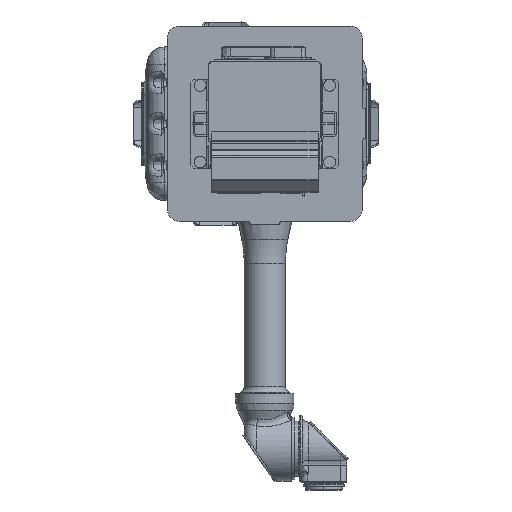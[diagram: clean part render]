
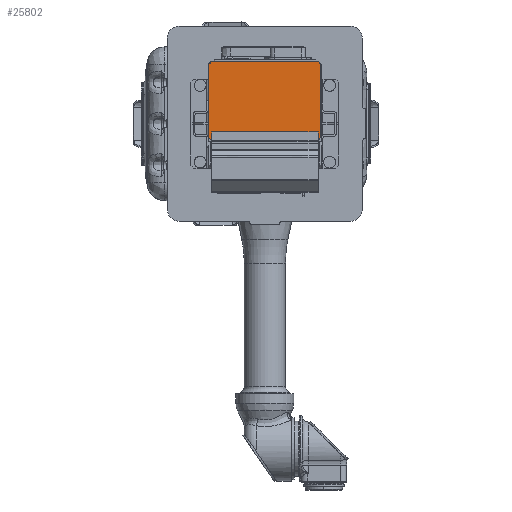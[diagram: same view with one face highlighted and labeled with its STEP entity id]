
A CAD part, front view. The second image highlights one B-rep face of the part: STEP entity #25802.
In plain terms, the highlighted free-form (B-spline) face has degree [3, 3] with [4, 4] control points.
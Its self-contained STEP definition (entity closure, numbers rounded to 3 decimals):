
#20768=B_SPLINE_SURFACE_WITH_KNOTS('',3,3,((#189042,#189043,#189044,#189045),
(#189046,#189047,#189048,#189049),(#189050,#189051,#189052,#189053),(#189054,
#189055,#189056,#189057)),.UNSPECIFIED.,.F.,.F.,.F.,(4,4),(4,4),(0.,1.),
(0.,1.),.UNSPECIFIED.);
#25802=ADVANCED_FACE('',(#28424),#20768,.F.);
#28424=FACE_OUTER_BOUND('',#31226,.T.);
#31226=EDGE_LOOP('',(#44735,#44736,#44737,#44738,#44739,#44740,#44741,#44742,
#44743,#44744));
#44735=ORIENTED_EDGE('',*,*,#55809,.F.);
#44736=ORIENTED_EDGE('',*,*,#55806,.F.);
#44737=ORIENTED_EDGE('',*,*,#55804,.F.);
#44738=ORIENTED_EDGE('',*,*,#55802,.F.);
#44739=ORIENTED_EDGE('',*,*,#55800,.F.);
#44740=ORIENTED_EDGE('',*,*,#55799,.F.);
#44741=ORIENTED_EDGE('',*,*,#55797,.F.);
#44742=ORIENTED_EDGE('',*,*,#55795,.F.);
#44743=ORIENTED_EDGE('',*,*,#55794,.F.);
#44744=ORIENTED_EDGE('',*,*,#55810,.F.);
#49264=VERTEX_POINT('',#188466);
#49267=VERTEX_POINT('',#188477);
#49288=VERTEX_POINT('',#188806);
#49289=VERTEX_POINT('',#188831);
#49290=VERTEX_POINT('',#188856);
#49291=VERTEX_POINT('',#188901);
#49292=VERTEX_POINT('',#188926);
#49293=VERTEX_POINT('',#188951);
#49294=VERTEX_POINT('',#188976);
#49295=VERTEX_POINT('',#189001);
#55794=EDGE_CURVE('',#49288,#49264,#61014,.T.);
#55795=EDGE_CURVE('',#49264,#49289,#61015,.T.);
#55797=EDGE_CURVE('',#49289,#49290,#61017,.T.);
#55799=EDGE_CURVE('',#49290,#49267,#61019,.T.);
#55800=EDGE_CURVE('',#49267,#49291,#61020,.T.);
#55802=EDGE_CURVE('',#49291,#49292,#61022,.T.);
#55804=EDGE_CURVE('',#49292,#49293,#61024,.T.);
#55806=EDGE_CURVE('',#49293,#49294,#61026,.T.);
#55809=EDGE_CURVE('',#49294,#49295,#61029,.T.);
#55810=EDGE_CURVE('',#49295,#49288,#61030,.T.);
#61014=B_SPLINE_CURVE_WITH_KNOTS('',3,(#188807,#188808,#188809,#188810),
 .UNSPECIFIED.,.F.,.F.,(4,4),(0.,1.),.UNSPECIFIED.);
#61015=B_SPLINE_CURVE_WITH_KNOTS('',3,(#188827,#188828,#188829,#188830),
 .UNSPECIFIED.,.F.,.F.,(4,4),(0.,1.),.UNSPECIFIED.);
#61017=B_SPLINE_CURVE_WITH_KNOTS('',3,(#188852,#188853,#188854,#188855),
 .UNSPECIFIED.,.F.,.F.,(4,4),(0.,1.),.UNSPECIFIED.);
#61019=B_SPLINE_CURVE_WITH_KNOTS('',3,(#188877,#188878,#188879,#188880),
 .UNSPECIFIED.,.F.,.F.,(4,4),(0.,1.),.UNSPECIFIED.);
#61020=B_SPLINE_CURVE_WITH_KNOTS('',3,(#188897,#188898,#188899,#188900),
 .UNSPECIFIED.,.F.,.F.,(4,4),(0.,1.),.UNSPECIFIED.);
#61022=B_SPLINE_CURVE_WITH_KNOTS('',3,(#188922,#188923,#188924,#188925),
 .UNSPECIFIED.,.F.,.F.,(4,4),(0.,1.),.UNSPECIFIED.);
#61024=B_SPLINE_CURVE_WITH_KNOTS('',3,(#188947,#188948,#188949,#188950),
 .UNSPECIFIED.,.F.,.F.,(4,4),(0.,1.),.UNSPECIFIED.);
#61026=B_SPLINE_CURVE_WITH_KNOTS('',3,(#188972,#188973,#188974,#188975),
 .UNSPECIFIED.,.F.,.F.,(4,4),(0.,1.),.UNSPECIFIED.);
#61029=B_SPLINE_CURVE_WITH_KNOTS('',3,(#189002,#189003,#189004,#189005),
 .UNSPECIFIED.,.F.,.F.,(4,4),(0.,1.),.UNSPECIFIED.);
#61030=B_SPLINE_CURVE_WITH_KNOTS('',3,(#189022,#189023,#189024,#189025),
 .UNSPECIFIED.,.F.,.F.,(4,4),(0.,1.),.UNSPECIFIED.);
#188466=CARTESIAN_POINT('',(90.,-249.8,-29.));
#188477=CARTESIAN_POINT('',(-90.,-249.8,-29.));
#188806=CARTESIAN_POINT('',(95.,-249.8,-24.));
#188807=CARTESIAN_POINT('',(95.,-249.8,-24.));
#188808=CARTESIAN_POINT('',(93.333,-249.8,-25.667));
#188809=CARTESIAN_POINT('',(91.667,-249.8,-27.333));
#188810=CARTESIAN_POINT('',(90.,-249.8,-29.));
#188827=CARTESIAN_POINT('',(90.,-249.8,-29.));
#188828=CARTESIAN_POINT('',(90.,-249.8,-24.));
#188829=CARTESIAN_POINT('',(90.,-249.8,-19.));
#188830=CARTESIAN_POINT('',(90.,-249.8,-14.));
#188831=CARTESIAN_POINT('',(90.,-249.8,-14.));
#188852=CARTESIAN_POINT('',(90.,-249.8,-14.));
#188853=CARTESIAN_POINT('',(30.,-249.8,-14.));
#188854=CARTESIAN_POINT('',(-30.,-249.8,-14.));
#188855=CARTESIAN_POINT('',(-90.,-249.8,-14.));
#188856=CARTESIAN_POINT('',(-90.,-249.8,-14.));
#188877=CARTESIAN_POINT('',(-90.,-249.8,-14.));
#188878=CARTESIAN_POINT('',(-90.,-249.8,-19.));
#188879=CARTESIAN_POINT('',(-90.,-249.8,-24.));
#188880=CARTESIAN_POINT('',(-90.,-249.8,-29.));
#188897=CARTESIAN_POINT('',(-90.,-249.8,-29.));
#188898=CARTESIAN_POINT('',(-91.667,-249.8,-27.333));
#188899=CARTESIAN_POINT('',(-93.333,-249.8,-25.667));
#188900=CARTESIAN_POINT('',(-95.,-249.8,-24.));
#188901=CARTESIAN_POINT('',(-95.,-249.8,-24.));
#188922=CARTESIAN_POINT('',(-95.,-249.8,-24.));
#188923=CARTESIAN_POINT('',(-95.,-249.8,17.333));
#188924=CARTESIAN_POINT('',(-95.,-249.8,58.667));
#188925=CARTESIAN_POINT('',(-95.,-249.8,100.));
#188926=CARTESIAN_POINT('',(-95.,-249.8,100.));
#188947=CARTESIAN_POINT('',(-95.,-249.8,100.));
#188948=CARTESIAN_POINT('',(-93.333,-249.8,101.667));
#188949=CARTESIAN_POINT('',(-91.667,-249.8,103.333));
#188950=CARTESIAN_POINT('',(-90.,-249.8,105.));
#188951=CARTESIAN_POINT('',(-90.,-249.8,105.));
#188972=CARTESIAN_POINT('',(-90.,-249.8,105.));
#188973=CARTESIAN_POINT('',(-30.,-249.8,105.));
#188974=CARTESIAN_POINT('',(30.,-249.8,105.));
#188975=CARTESIAN_POINT('',(90.,-249.8,105.));
#188976=CARTESIAN_POINT('',(90.,-249.8,105.));
#189001=CARTESIAN_POINT('',(95.,-249.8,100.));
#189002=CARTESIAN_POINT('',(90.,-249.8,105.));
#189003=CARTESIAN_POINT('',(91.667,-249.8,103.333));
#189004=CARTESIAN_POINT('',(93.333,-249.8,101.667));
#189005=CARTESIAN_POINT('',(95.,-249.8,100.));
#189022=CARTESIAN_POINT('',(95.,-249.8,100.));
#189023=CARTESIAN_POINT('',(95.,-249.8,58.667));
#189024=CARTESIAN_POINT('',(95.,-249.8,17.333));
#189025=CARTESIAN_POINT('',(95.,-249.8,-24.));
#189042=CARTESIAN_POINT('',(-95.,-249.8,-29.804));
#189043=CARTESIAN_POINT('',(-31.667,-249.8,-29.804));
#189044=CARTESIAN_POINT('',(31.667,-249.8,-29.804));
#189045=CARTESIAN_POINT('',(95.,-249.8,-29.804));
#189046=CARTESIAN_POINT('',(-95.,-249.8,15.131));
#189047=CARTESIAN_POINT('',(-31.667,-249.8,15.131));
#189048=CARTESIAN_POINT('',(31.667,-249.8,15.131));
#189049=CARTESIAN_POINT('',(95.,-249.8,15.131));
#189050=CARTESIAN_POINT('',(-95.,-249.8,60.065));
#189051=CARTESIAN_POINT('',(-31.667,-249.8,60.065));
#189052=CARTESIAN_POINT('',(31.667,-249.8,60.065));
#189053=CARTESIAN_POINT('',(95.,-249.8,60.065));
#189054=CARTESIAN_POINT('',(-95.,-249.8,105.));
#189055=CARTESIAN_POINT('',(-31.667,-249.8,105.));
#189056=CARTESIAN_POINT('',(31.667,-249.8,105.));
#189057=CARTESIAN_POINT('',(95.,-249.8,105.));
